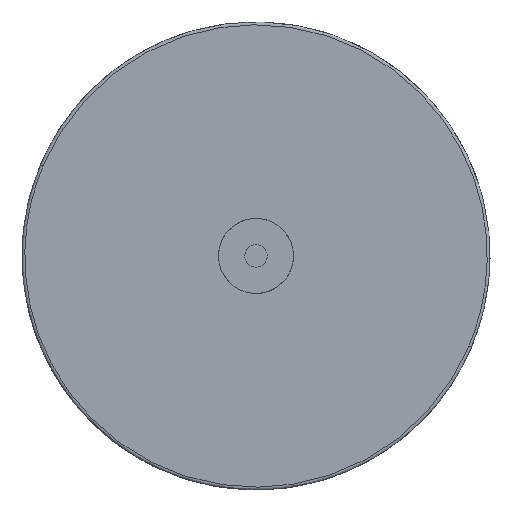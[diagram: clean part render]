
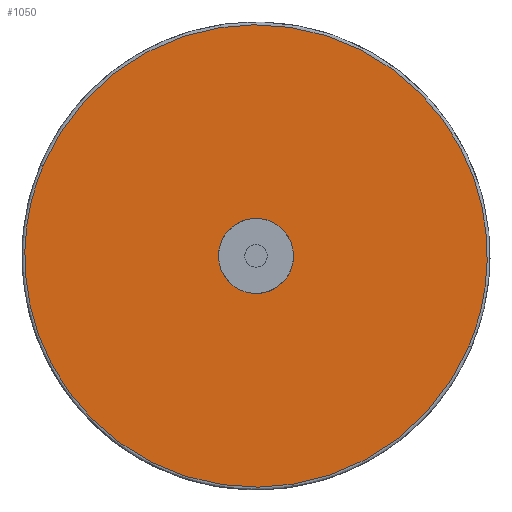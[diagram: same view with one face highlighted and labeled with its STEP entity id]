
A CAD part, top view. The second image highlights one B-rep face of the part: STEP entity #1050.
In plain terms, the highlighted free-form (B-spline) face has degree [1, 1] with [2, 2] control points.
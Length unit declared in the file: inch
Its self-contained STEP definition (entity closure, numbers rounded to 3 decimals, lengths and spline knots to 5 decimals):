
#47 = CARTESIAN_POINT ( 'NONE',  ( 8.26531, 7.06327, 3.66142 ) ) ;
#104 =( BOUNDED_CURVE ( )  B_SPLINE_CURVE ( 3, ( #460, #1372, #1703, #777, #288, #182, #756 ),
 .UNSPECIFIED., .F., .F. ) 
 B_SPLINE_CURVE_WITH_KNOTS ( ( 4, 3, 4 ),
 ( -3.14159, -1.5708, 0. ),
 .UNSPECIFIED. ) 
 CURVE ( )  GEOMETRIC_REPRESENTATION_ITEM ( )  RATIONAL_B_SPLINE_CURVE ( ( 1., 0.805, 0.805, 1., 0.805, 0.805, 1. ) ) 
 REPRESENTATION_ITEM ( '' )  );
#120 = ORIENTED_EDGE ( 'NONE', *, *, #680, .F. ) ;
#182 = CARTESIAN_POINT ( 'NONE',  ( -0.15959, 0.21396, 3.66142 ) ) ;
#192 = VERTEX_POINT ( 'NONE', #754 ) ;
#218 = B_SPLINE_SURFACE_WITH_KNOTS ( 'NONE', 1, 1, ( 
 ( #1796, #1484 ),
 ( #1620, #400 ) ),
 .UNSPECIFIED., .F., .F., .F.,
 ( 2, 2 ),
 ( 2, 2 ),
 ( 0., 1. ),
 ( 0., 1. ),
 .UNSPECIFIED. ) ;
#266 = CARTESIAN_POINT ( 'NONE',  ( -0.39151, -0.33458, 3.66142 ) ) ;
#288 = CARTESIAN_POINT ( 'NONE',  ( -0.03457, 0.26467, 3.66142 ) ) ;
#294 =( BOUNDED_CURVE ( )  B_SPLINE_CURVE ( 3, ( #753, #266, #882, #597 ),
 .UNSPECIFIED., .F., .F. ) 
 B_SPLINE_CURVE_WITH_KNOTS ( ( 4, 4 ),
 ( -3.14159, 0. ),
 .UNSPECIFIED. ) 
 CURVE ( )  GEOMETRIC_REPRESENTATION_ITEM ( )  RATIONAL_B_SPLINE_CURVE ( ( 1., 0.333, 0.333, 1. ) ) 
 REPRESENTATION_ITEM ( '' )  );
#394 = ORIENTED_EDGE ( 'NONE', *, *, #1297, .F. ) ;
#400 = CARTESIAN_POINT ( 'NONE',  ( -2.61592, 6.4483, 3.66142 ) ) ;
#460 = CARTESIAN_POINT ( 'NONE',  ( 0.21213, -0.08969, 3.66142 ) ) ;
#538 = VERTEX_POINT ( 'NONE', #1021 ) ;
#597 = CARTESIAN_POINT ( 'NONE',  ( 0.21213, -0.08969, 3.66142 ) ) ;
#601 = ORIENTED_EDGE ( 'NONE', *, *, #1199, .F. ) ;
#620 = EDGE_LOOP ( 'NONE', ( #394, #757 ) ) ;
#640 = CARTESIAN_POINT ( 'NONE',  ( -4.47837, 1.89347, 3.66142 ) ) ;
#680 = EDGE_CURVE ( 'NONE', #1010, #1579, #1002, .T. ) ;
#753 = CARTESIAN_POINT ( 'NONE',  ( -0.21213, 0.08969, 3.66142 ) ) ;
#754 = CARTESIAN_POINT ( 'NONE',  ( -0.21213, 0.08969, 3.66142 ) ) ;
#756 = CARTESIAN_POINT ( 'NONE',  ( -0.21213, 0.08969, 3.66142 ) ) ;
#757 = ORIENTED_EDGE ( 'NONE', *, *, #1925, .F. ) ;
#770 = CARTESIAN_POINT ( 'NONE',  ( 4.47837, -1.89347, 3.66142 ) ) ;
#777 = CARTESIAN_POINT ( 'NONE',  ( 0.08969, 0.21213, 3.66142 ) ) ;
#882 = CARTESIAN_POINT ( 'NONE',  ( 0.03275, -0.51396, 3.66142 ) ) ;
#1002 =( BOUNDED_CURVE ( )  B_SPLINE_CURVE ( 3, ( #640, #1076, #47, #1705 ),
 .UNSPECIFIED., .F., .T. ) 
 B_SPLINE_CURVE_WITH_KNOTS ( ( 4, 4 ),
 ( 0., 3.14159 ),
 .UNSPECIFIED. ) 
 CURVE ( )  GEOMETRIC_REPRESENTATION_ITEM ( )  RATIONAL_B_SPLINE_CURVE ( ( 0.957, 0.319, 0.319, 0.957 ) ) 
 REPRESENTATION_ITEM ( '' )  );
#1010 = VERTEX_POINT ( 'NONE', #1856 ) ;
#1021 = CARTESIAN_POINT ( 'NONE',  ( 0.21213, -0.08969, 3.66142 ) ) ;
#1050 = ADVANCED_FACE ( 'NONE', ( #1461, #1778 ), #218, .F. ) ;
#1076 = CARTESIAN_POINT ( 'NONE',  ( -0.69143, 10.85021, 3.66142 ) ) ;
#1199 = EDGE_CURVE ( 'NONE', #1579, #1010, #1317, .T. ) ;
#1297 = EDGE_CURVE ( 'NONE', #538, #192, #104, .T. ) ;
#1313 = CARTESIAN_POINT ( 'NONE',  ( -4.47837, 1.89347, 3.66142 ) ) ;
#1317 =( BOUNDED_CURVE ( )  B_SPLINE_CURVE ( 3, ( #1948, #1810, #1801, #1313 ),
 .UNSPECIFIED., .F., .F. ) 
 B_SPLINE_CURVE_WITH_KNOTS ( ( 4, 4 ),
 ( 0., 3.14159 ),
 .UNSPECIFIED. ) 
 CURVE ( )  GEOMETRIC_REPRESENTATION_ITEM ( )  RATIONAL_B_SPLINE_CURVE ( ( 0.957, 0.319, 0.319, 0.957 ) ) 
 REPRESENTATION_ITEM ( '' )  );
#1372 = CARTESIAN_POINT ( 'NONE',  ( 0.26467, 0.03457, 3.66142 ) ) ;
#1461 = FACE_BOUND ( 'NONE', #620, .T. ) ;
#1484 = CARTESIAN_POINT ( 'NONE',  ( 6.4483, 2.61592, 3.66142 ) ) ;
#1579 = VERTEX_POINT ( 'NONE', #770 ) ;
#1620 = CARTESIAN_POINT ( 'NONE',  ( -6.4483, -2.61592, 3.66142 ) ) ;
#1703 = CARTESIAN_POINT ( 'NONE',  ( 0.21396, 0.15959, 3.66142 ) ) ;
#1705 = CARTESIAN_POINT ( 'NONE',  ( 4.47837, -1.89347, 3.66142 ) ) ;
#1778 = FACE_OUTER_BOUND ( 'NONE', #1811, .T. ) ;
#1796 = CARTESIAN_POINT ( 'NONE',  ( 2.61592, -6.4483, 3.66142 ) ) ;
#1801 = CARTESIAN_POINT ( 'NONE',  ( -8.26531, -7.06327, 3.66142 ) ) ;
#1810 = CARTESIAN_POINT ( 'NONE',  ( 0.69143, -10.85021, 3.66142 ) ) ;
#1811 = EDGE_LOOP ( 'NONE', ( #120, #601 ) ) ;
#1856 = CARTESIAN_POINT ( 'NONE',  ( -4.47837, 1.89347, 3.66142 ) ) ;
#1925 = EDGE_CURVE ( 'NONE', #192, #538, #294, .T. ) ;
#1948 = CARTESIAN_POINT ( 'NONE',  ( 4.47837, -1.89347, 3.66142 ) ) ;
